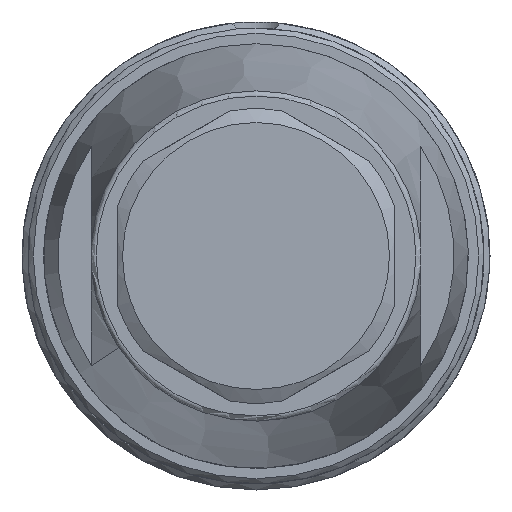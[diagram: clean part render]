
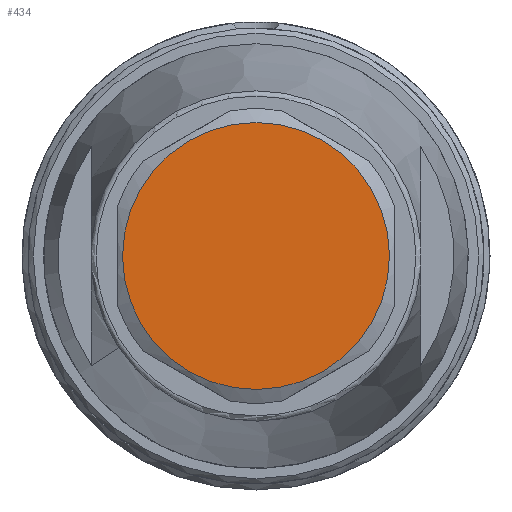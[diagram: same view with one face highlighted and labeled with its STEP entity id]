
A CAD part, left-side view. The second image highlights one B-rep face of the part: STEP entity #434.
In plain terms, the highlighted planar face has unit normal (-1, 0, 0).
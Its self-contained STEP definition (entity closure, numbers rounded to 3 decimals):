
#322=CIRCLE('',#1956,7.7);
#434=ADVANCED_FACE('',(#612),#561,.T.);
#561=PLANE('',#1957);
#612=FACE_OUTER_BOUND('',#692,.T.);
#692=EDGE_LOOP('',(#982));
#982=ORIENTED_EDGE('',*,*,#1595,.T.);
#1415=VERTEX_POINT('',#2963);
#1595=EDGE_CURVE('',#1415,#1415,#322,.T.);
#1956=AXIS2_PLACEMENT_3D('',#2962,#2288,#2289);
#1957=AXIS2_PLACEMENT_3D('',#2964,#2290,#2291);
#2288=DIRECTION('',(-1.,0.,0.));
#2289=DIRECTION('',(0.,0.,1.));
#2290=DIRECTION('',(-1.,0.,0.));
#2291=DIRECTION('',(0.,0.,1.));
#2962=CARTESIAN_POINT('',(-78.4,0.,0.));
#2963=CARTESIAN_POINT('',(-78.4,0.,7.7));
#2964=CARTESIAN_POINT('',(-78.4,0.,0.));
